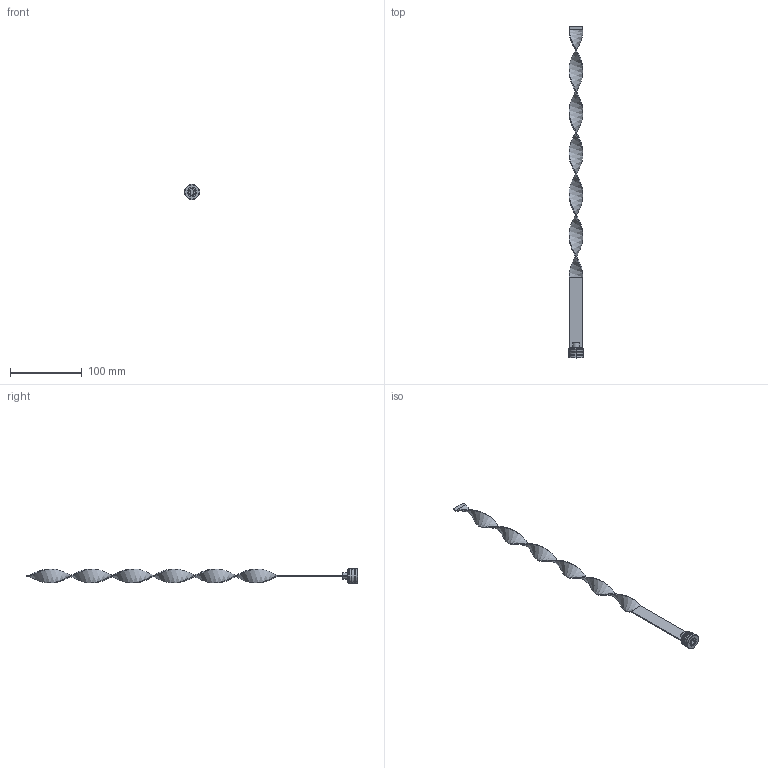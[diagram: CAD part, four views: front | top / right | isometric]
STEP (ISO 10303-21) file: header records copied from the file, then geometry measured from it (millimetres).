
FILE_DESCRIPTION (( 'STEP AP203' ), '1' );
FILE_NAME ('RLS20Fx450-19,5.STEP', '2015-12-10T14:35:26', ( 'Balzi' ), ( '' ), 'SwSTEP 2.0', 'SolidWorks 2015', '' );
FILE_SCHEMA (( 'CONFIG_CONTROL_DESIGN' ));
Length unit declared in the file: millimetre
Products named in the file (1): RLS20Fx450-19,5
Bounding box: 21.5 x 464 x 21.5 mm (x, y, z)
Volume: 17628.6 mm3; surface area: 21790.6 mm2
Topology: 1 solids, 1 shells, 83 faces, 193 edges, 117 vertices
Faces by surface type: plane 35, cone 19, cylinder 17, torus 8, bspline 4
Entity records: 5005 total; most frequent: CARTESIAN_POINT 3040, DIRECTION 406, ORIENTED_EDGE 386, EDGE_CURVE 193, AXIS2_PLACEMENT_3D 151, VERTEX_POINT 117, LINE 104, VECTOR 104
